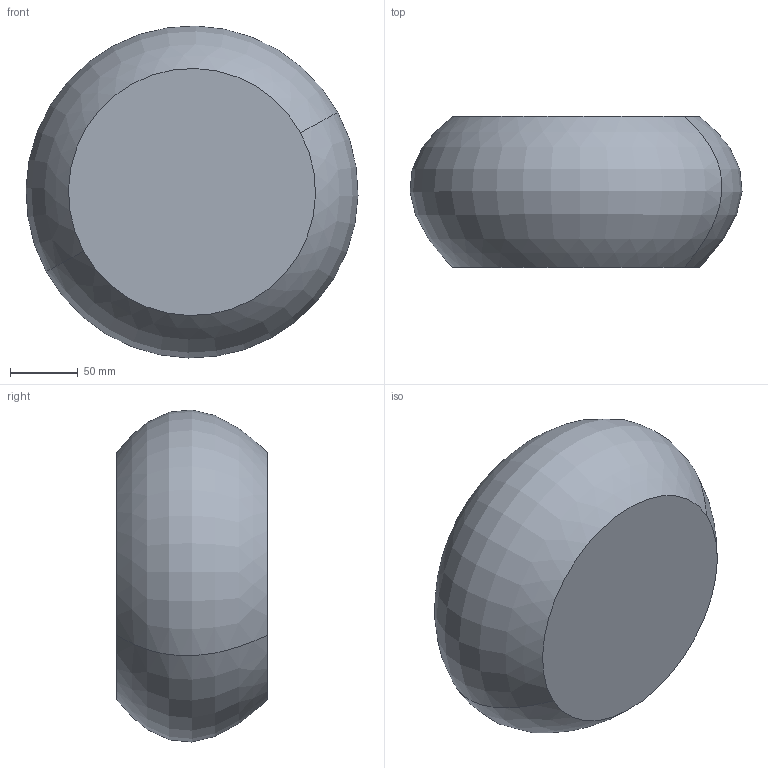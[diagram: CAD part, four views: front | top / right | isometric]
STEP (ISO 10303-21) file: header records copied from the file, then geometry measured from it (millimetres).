
FILE_DESCRIPTION(('CATIA V5 STEP Exchange'),'2;1');
FILE_NAME('C:\_Andres\UNIVERSIDAD\IQS\ASIGNATURAS\DAO\EXF\EXF-15161c\1original\Aloguín_Serramia_Ej10-decora_v1.stp','2016-03-04T22:24:11+00:00',('none'),('none'),'CATIA Version 5 Release 20 SP 1 (IN-10)','CATIA V5 STEP AP203','none');
FILE_SCHEMA(('CONFIG_CONTROL_DESIGN'));
Length unit declared in the file: millimetre
Products named in the file (1): Aloguín_Serramia_Ej10-decora_v1
Bounding box: 244.52 x 111 x 244.52 mm (x, y, z)
Volume: 4401111.3 mm3; surface area: 143571.1 mm2
Topology: 1 solids, 1 shells, 4 faces, 6 edges, 4 vertices
Faces by surface type: revolution 2, plane 2
Entity records: 166 total; most frequent: CARTESIAN_POINT 50, DIRECTION 12, ORIENTED_EDGE 12, AXIS2_PLACEMENT_3D 8, EDGE_CURVE 6, ADVANCED_FACE 4, B_SPLINE_CURVE_WITH_KNOTS 4, CC_DESIGN_PERSON_AND_ORGANIZATION_ASSIGNMENT 4
